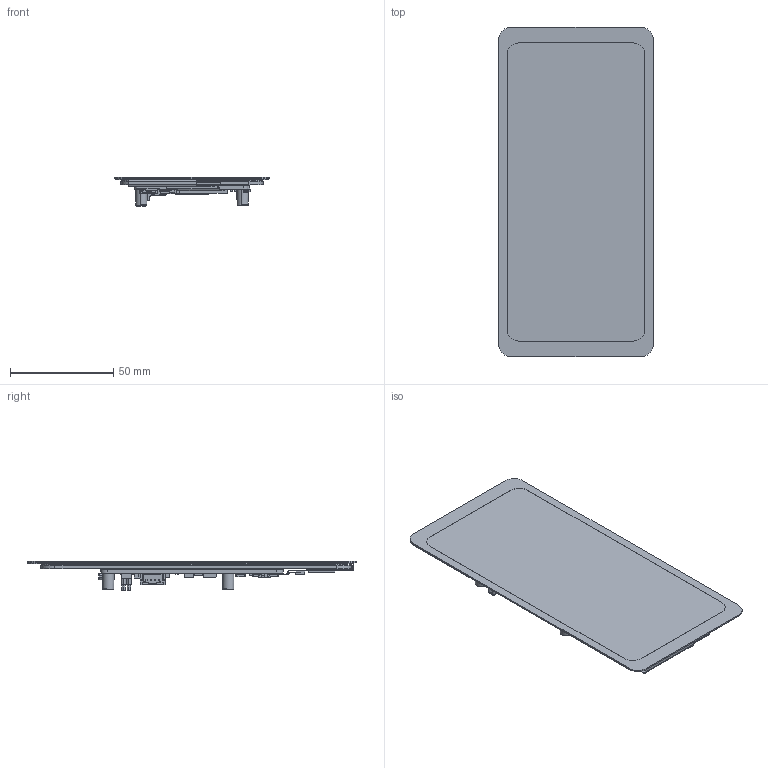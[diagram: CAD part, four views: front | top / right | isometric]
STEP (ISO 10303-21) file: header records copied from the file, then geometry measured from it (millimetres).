
FILE_DESCRIPTION((''),'2;1');
FILE_NAME('6_25INCH-DSI-LCD_ASM','2024-10-25T20:03:19',('xiaojisheng'),(''),'CREO PARAMETRIC BY PTC INC, 2021063','CREO PARAMETRIC BY PTC INC, 2021063','');
FILE_SCHEMA(('CONFIG_CONTROL_DESIGN','SHAPE_APPEARANCE_LAYERS_GROUPS'));
Products named in the file (211): 6_25INCH-LX625HDK40186-V0; 6_25INCH-720X1560-TP; 6_25INCH-LCD_TP_ASM; TR_FASTENINGS_LTD-M2_5X8MM_X; 1MM-15PIN-FPC-CONNECTOR; PIN-4P-2_54-2_2X8_5MM; HP2_0-4PIN-SMT-HORIZONTAL; FH12-6PIN-0_5SH_TP-CONNECTOR; SWITCH-TS24CA; SWITCH-SMT-TDA04; OPEN_CASCADE_STEP_TRANSLATOR_7_; BOARD_ASM; EXTRUDED-2795; 6267676416_ASM; EXTRUDED-2992; 6267676576_ASM; R22_ASM; R15_ASM; R14_ASM; R13_ASM; R12_ASM; R11_ASM; EXTRUDED-3445; 6267677056_ASM; EXTRUDED-3642; 6267677216_ASM; R1_ASM; R69_ASM; R68_ASM; EXTRUDED-4164; 6267024992_ASM; U19_ASM; EXTRUDED-4379; 6267022992_ASM; U1_ASM; R9_ASM; R8_ASM; C51_ASM; R28_ASM; USER_LIBRARY-LED_0603_R_PO-4794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
Assembly tree (529 placements, depth 7):
  6_25INCH-DSI-LCD_ASM
    6_25INCH-LCD_TP_ASM
      6_25INCH-LX625HDK40186-V0
      6_25INCH-720X1560-TP
    5INCH-DSI-LCD_PCBA-20240621_ASM
      TR_FASTENINGS_LTD-M2_5X8MM_X  x4
      1MM-15PIN-FPC-CONNECTOR
      PIN-4P-2_54-2_2X8_5MM
      HP2_0-4PIN-SMT-HORIZONTAL
      FH12-6PIN-0_5SH_TP-CONNECTOR
      SWITCH-TS24CA  x3
      SWITCH-SMT-TDA04
      5-6_25IN_DSI_LCD_PCBA-V0-240703_ASM
        PCB_ASM
          BOARD_ASM
            OPEN_CASCADE_STEP_TRANSLATOR_7_
          R22_ASM
            6267676416_ASM  x2
              EXTRUDED-2795
            6267676576_ASM
              EXTRUDED-2992
          R15_ASM
            6267676576_ASM
              EXTRUDED-2992
            6267676416_ASM  x2
              EXTRUDED-2795
          R14_ASM
            6267676416_ASM  x2
              EXTRUDED-2795
            6267676576_ASM
              EXTRUDED-2992
          R13_ASM
            6267676576_ASM
              EXTRUDED-2992
            6267676416_ASM  x2
              EXTRUDED-2795
          R12_ASM
            6267676416_ASM  x2
              EXTRUDED-2795
            6267676576_ASM
              EXTRUDED-2992
          R11_ASM
            6267676576_ASM
              EXTRUDED-2992
            6267676416_ASM  x2
              EXTRUDED-2795
          R1_ASM
            6267677056_ASM  x2
              EXTRUDED-3445
            6267677216_ASM
              EXTRUDED-3642
          R69_ASM
            6267677216_ASM
              EXTRUDED-3642
            6267677056_ASM  x2
              EXTRUDED-3445
          R68_ASM
            6267677056_ASM  x2
              EXTRUDED-3445
            6267677216_ASM
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Bounding box: 74.7 x 159.18 x 14.1 mm (x, y, z)
Volume: 46011 mm3; surface area: 68714.8 mm2
Topology: 371 solids, 373 shells, 5238 faces, 13019 edges, 8572 vertices
Faces by surface type: plane 4409, cylinder 585, extrusion 111, cone 77, bspline 48, sphere 8
Entity records: 124995 total; most frequent: CARTESIAN_POINT 24840, DIRECTION 15690, ORIENTED_EDGE 14828, EDGE_CURVE 7415, PRESENTATION_STYLE_ASSIGNMENT 6611, STYLED_ITEM 6414, VECTOR 6102, LINE 5991
